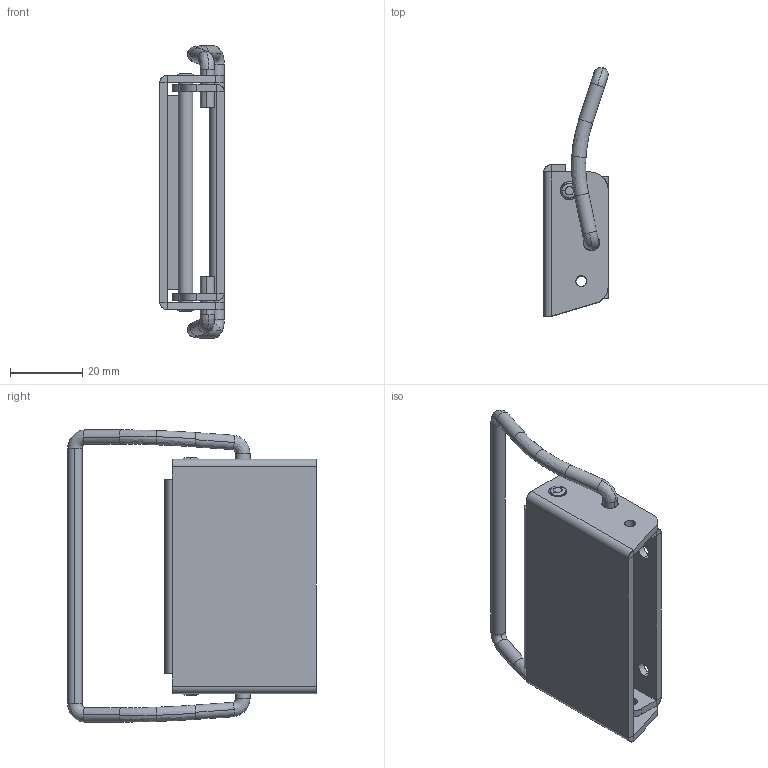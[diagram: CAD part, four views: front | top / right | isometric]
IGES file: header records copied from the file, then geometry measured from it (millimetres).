
Start section: SolidWorks IGES file using analytic representation for surfaces
Global section: file name: Z:\Mes documents\ATAO iges\Gamme GE\GE 1091\GE 1091.IGS; native system: SolidWorks 2008; preprocessor: SolidWorks 2008; author: cbrechard; date: 110527.102324; units: millimetre
Bounding box: 17.85 x 69 x 81.12 mm (x, y, z)
Surface area: 17258.4 mm2 (no closed solid volume)
Topology: 0 solids, 0 shells, 157 faces, 2100 edges, 2100 vertices
Faces by surface type: bspline 90, revolution 67
